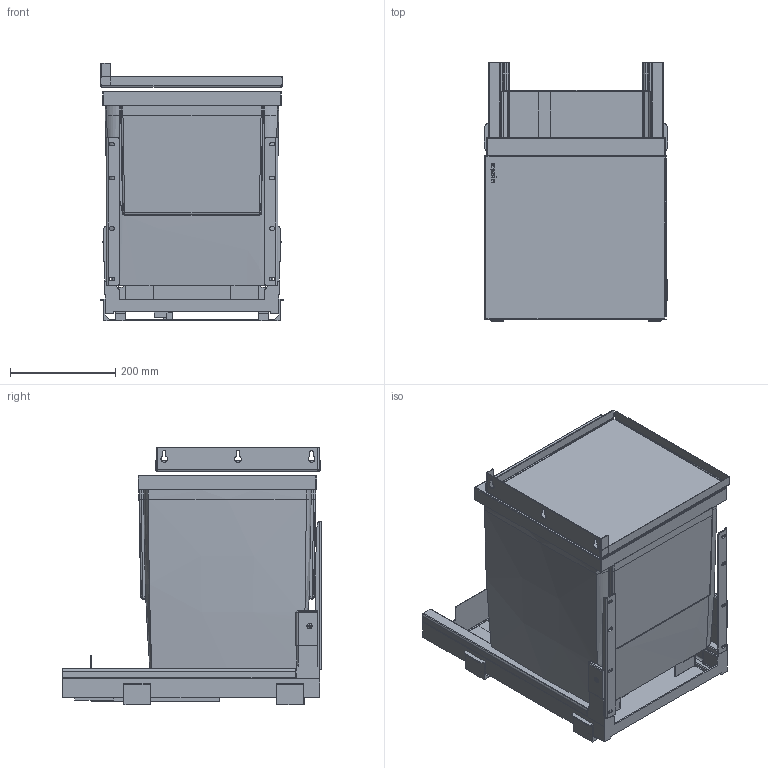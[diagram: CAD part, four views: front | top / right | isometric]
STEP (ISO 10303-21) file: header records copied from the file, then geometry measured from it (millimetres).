
FILE_DESCRIPTION(('STEP AP242'),'1');
FILE_NAME('OPO_53.433.02_volu_3d.stp','2025-11-08T20:29:30',(' '),(' '),'Spatial InterOp 3D',' ',' ');
FILE_SCHEMA(('AP242_MANAGED_MODEL_BASED_3D_ENGINEERING_MIM_LF {1 0 10303 442 1 1 4}'));
Length unit declared in the file: millimetre
Products named in the file (1): 1
Bounding box: 348 x 491.5 x 489.8 mm (x, y, z)
Volume: 39491601 mm3; surface area: 1622941.9 mm2
Topology: 2 solids, 2 shells, 964 faces, 2683 edges, 1728 vertices
Faces by surface type: plane 522, cylinder 370, bspline 34, sphere 26, torus 12
Entity records: 43171 total; most frequent: CARTESIAN_POINT 10215, ORIENTED_EDGE 5354, DIRECTION 5241, EDGE_CURVE 2677, LINE 1761, VECTOR 1761, AXIS2_PLACEMENT_3D 1740, VERTEX_POINT 1728
